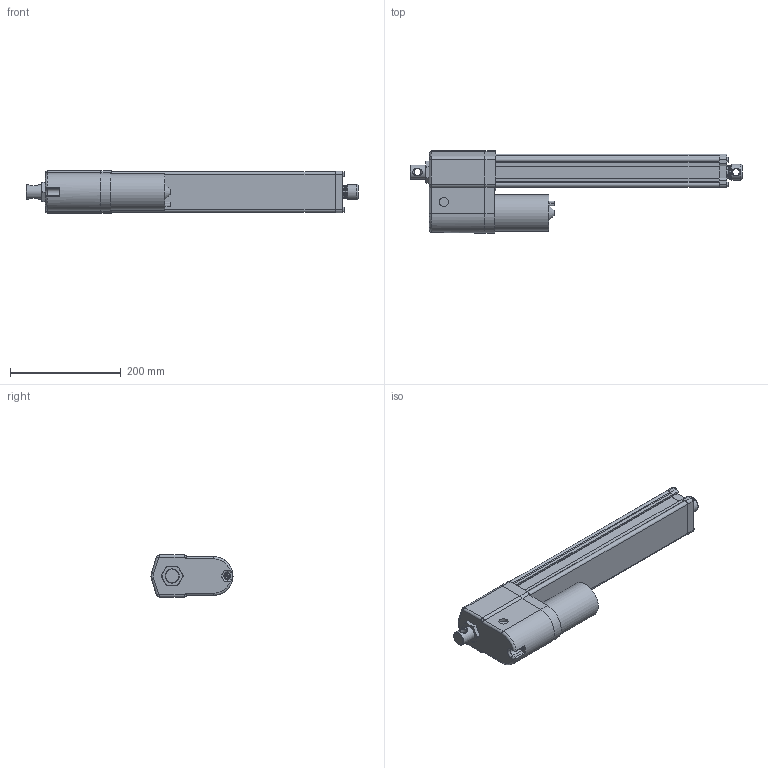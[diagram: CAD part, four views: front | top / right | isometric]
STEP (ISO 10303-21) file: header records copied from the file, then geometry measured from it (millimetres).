
FILE_DESCRIPTION( ( 'STEP AP203' ), '1' );
FILE_NAME( 'p:/temp/worker_439/temp/exporttempdir_6968_823_ZoIXo/format_0/DA24-21B65M30M0NPO-AMM.stp', '2020-04-12T18:22:39', ( 'License CC BY-ND 4.0' ), ( 'CADENAS' ), ' ', 'PARTsolutions', ' ' );
FILE_SCHEMA( ( 'CONFIG_CONTROL_DESIGN' ) );
Length unit declared in the file: millimetre
Products named in the file (8): DA24-21B65M30M0NPO-AMM; _ELECTRAK-LA14-DA24-21B65MM0NPO-30M-EU-REAR; _Electrak-10-EU-RA-D602700; _D602768eu; _ELECTRAK-LA14-DA24--MOTOR; _DA24-21B65M30M0NPOAMMtube; _ELECTRAK-LA14-DA24--30-PLATE; _ELECTRAK-LA14-DA24--3021B65MNPOM-ROD
Assembly tree (7 placements, depth 2):
  DA24-21B65M30M0NPO-AMM
    _ELECTRAK-LA14-DA24-21B65MM0NPO-30M-EU-REAR
    _Electrak-10-EU-RA-D602700
    _D602768eu
    _ELECTRAK-LA14-DA24--MOTOR
    _DA24-21B65M30M0NPOAMMtube
    _ELECTRAK-LA14-DA24--30-PLATE
    _ELECTRAK-LA14-DA24--3021B65MNPOM-ROD
Bounding box: 598.95 x 148 x 76.2 mm (x, y, z)
Volume: 2226021.5 mm3; surface area: 440144.6 mm2
Topology: 7 solids, 8 shells, 378 faces, 942 edges, 611 vertices
Faces by surface type: plane 184, cylinder 131, cone 45, torus 14, bspline 4
Full cylindrical faces by diameter (mm): 4 x2, 4.126 x1, 4.8 x5, 5 x5, 5.6 x4, 7.878 x4, 9.398 x1, 12.2 x2, 16 x1, 16.5 x1, 21.8 x1, 25.2 x1, 25.4 x1, 26.24 x1, 28.5 x1, 28.6 x2, 47.625 x1, 65.3 x1
Entity records: 11834 total; most frequent: CARTESIAN_POINT 2729, DIRECTION 1869, ORIENTED_EDGE 1744, EDGE_CURVE 872, AXIS2_PLACEMENT_3D 702, VERTEX_POINT 602, EDGE_LOOP 485, LINE 465
